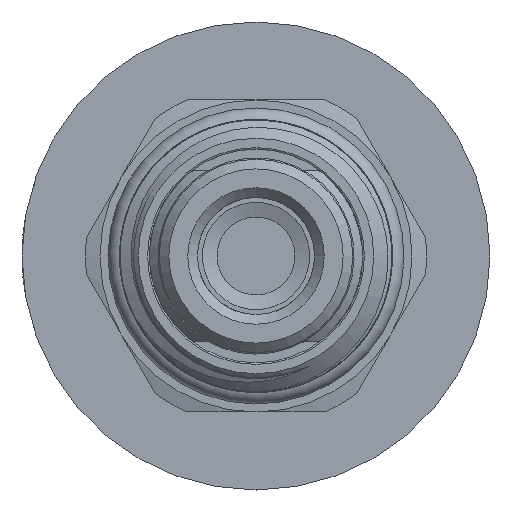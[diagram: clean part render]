
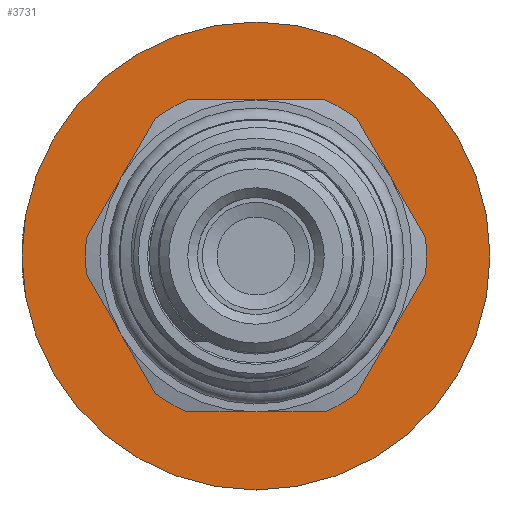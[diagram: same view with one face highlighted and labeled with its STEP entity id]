
A CAD part, left-side view. The second image highlights one B-rep face of the part: STEP entity #3731.
In plain terms, the highlighted planar face has unit normal (-1, 0, 0).
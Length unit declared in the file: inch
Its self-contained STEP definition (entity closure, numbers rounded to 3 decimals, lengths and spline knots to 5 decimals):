
#141=FACE_BOUND('',#722,.T.);
#189=PLANE('',#4057);
#501=FACE_OUTER_BOUND('',#721,.T.);
#721=EDGE_LOOP('',(#3143));
#722=EDGE_LOOP('',(#3144));
#901=CIRCLE('',#4058,0.75);
#902=CIRCLE('',#4059,0.375);
#1734=VERTEX_POINT('',#12374);
#1735=VERTEX_POINT('',#12376);
#2249=EDGE_CURVE('',#1734,#1734,#901,.T.);
#2250=EDGE_CURVE('',#1735,#1735,#902,.T.);
#3143=ORIENTED_EDGE('',*,*,#2249,.F.);
#3144=ORIENTED_EDGE('',*,*,#2250,.T.);
#3731=ADVANCED_FACE('',(#501,#141),#189,.F.);
#4057=AXIS2_PLACEMENT_3D('',#12373,#4721,#4722);
#4058=AXIS2_PLACEMENT_3D('',#12375,#4723,#4724);
#4059=AXIS2_PLACEMENT_3D('',#12377,#4725,#4726);
#4721=DIRECTION('center_axis',(1.,0.,0.));
#4722=DIRECTION('ref_axis',(0.,1.,0.));
#4723=DIRECTION('center_axis',(1.,0.,0.));
#4724=DIRECTION('ref_axis',(0.,1.,0.));
#4725=DIRECTION('center_axis',(1.,0.,0.));
#4726=DIRECTION('ref_axis',(0.,1.,0.));
#12373=CARTESIAN_POINT('Origin',(2.239,0.,0.));
#12374=CARTESIAN_POINT('',(2.239,-0.75,0.));
#12375=CARTESIAN_POINT('Origin',(2.239,0.,0.));
#12376=CARTESIAN_POINT('',(2.239,-0.375,0.));
#12377=CARTESIAN_POINT('Origin',(2.239,0.,0.));
